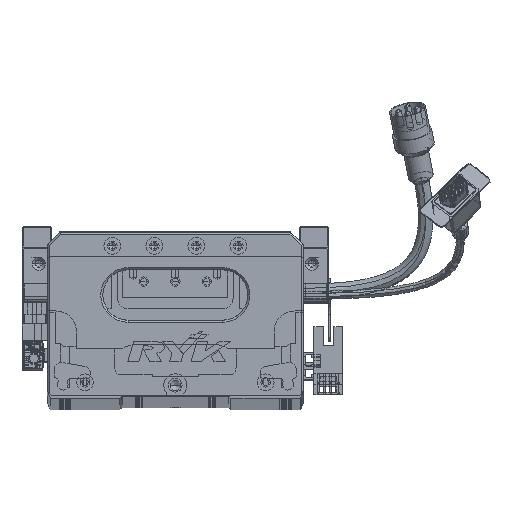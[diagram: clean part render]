
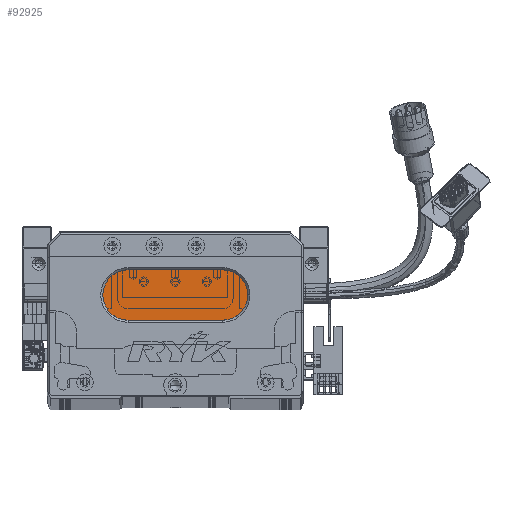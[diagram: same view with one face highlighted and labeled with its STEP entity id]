
A CAD part, top view. The second image highlights one B-rep face of the part: STEP entity #92925.
In plain terms, the highlighted planar face has unit normal (0, 0, 1) as drawn and (0, 0, -1) by its records, which use the part's own axes.
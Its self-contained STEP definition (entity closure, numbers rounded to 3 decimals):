
#1238 = DIRECTION ( 'NONE',  ( 0., 0., -1. ) ) ;
#5260 = AXIS2_PLACEMENT_3D ( 'NONE', #74980, #1238, #34184 ) ;
#7114 = CARTESIAN_POINT ( 'NONE',  ( 38.5, 60., 13. ) ) ;
#12437 = DIRECTION ( 'NONE',  ( -1., 0., 0. ) ) ;
#16497 = VECTOR ( 'NONE', #12437, 1000. ) ;
#18203 = EDGE_CURVE ( 'NONE', #92623, #50746, #44676, .T. ) ;
#18813 = EDGE_CURVE ( 'NONE', #50746, #87713, #137447, .T. ) ;
#19973 = VERTEX_POINT ( 'NONE', #7114 ) ;
#20079 = DIRECTION ( 'NONE',  ( 1., 0., 0. ) ) ;
#20404 = CARTESIAN_POINT ( 'NONE',  ( 83.5, 48., 13. ) ) ;
#20420 = ORIENTED_EDGE ( 'NONE', *, *, #28618, .T. ) ;
#21887 = DIRECTION ( 'NONE',  ( 0., 0., -1. ) ) ;
#22113 = EDGE_CURVE ( 'NONE', #87713, #19973, #78708, .T. ) ;
#24825 = ORIENTED_EDGE ( 'NONE', *, *, #45927, .T. ) ;
#27482 = EDGE_LOOP ( 'NONE', ( #20420, #122337, #88096, #61699, #24825 ) ) ;
#28618 = EDGE_CURVE ( 'NONE', #74074, #92623, #103250, .T. ) ;
#34184 = DIRECTION ( 'NONE',  ( -1., 0., 0. ) ) ;
#38293 = CARTESIAN_POINT ( 'NONE',  ( 83.5, 60., 13. ) ) ;
#40057 = CARTESIAN_POINT ( 'NONE',  ( 83.5, 60., 13. ) ) ;
#41635 = CARTESIAN_POINT ( 'NONE',  ( 38.5, 36., 13. ) ) ;
#44676 = LINE ( 'NONE', #86132, #16497 ) ;
#45446 = AXIS2_PLACEMENT_3D ( 'NONE', #54712, #21887, #76073 ) ;
#45927 = EDGE_CURVE ( 'NONE', #19973, #74074, #93654, .T. ) ;
#50746 = VERTEX_POINT ( 'NONE', #41635 ) ;
#54712 = CARTESIAN_POINT ( 'NONE',  ( 38.5, 48., 13. ) ) ;
#54971 = PLANE ( 'NONE',  #5260 ) ;
#61699 = ORIENTED_EDGE ( 'NONE', *, *, #22113, .T. ) ;
#65460 = VECTOR ( 'NONE', #20079, 1000. ) ;
#74074 = VERTEX_POINT ( 'NONE', #38293 ) ;
#74980 = CARTESIAN_POINT ( 'NONE',  ( 83.5, 48., 13. ) ) ;
#76073 = DIRECTION ( 'NONE',  ( -1., 0., 0. ) ) ;
#78708 = CIRCLE ( 'NONE', #45446, 12. ) ;
#85972 = DIRECTION ( 'NONE',  ( 0., 0., -1. ) ) ;
#86132 = CARTESIAN_POINT ( 'NONE',  ( 83.5, 36., 13. ) ) ;
#86254 = DIRECTION ( 'NONE',  ( 0., 0., -1. ) ) ;
#86422 = CARTESIAN_POINT ( 'NONE',  ( 38.5, 48., 13. ) ) ;
#87713 = VERTEX_POINT ( 'NONE', #128011 ) ;
#88096 = ORIENTED_EDGE ( 'NONE', *, *, #18813, .T. ) ;
#91490 = DIRECTION ( 'NONE',  ( -1., 0., 0. ) ) ;
#92623 = VERTEX_POINT ( 'NONE', #117692 ) ;
#92925 = ADVANCED_FACE ( 'NONE', ( #100688 ), #54971, .T. ) ;
#93654 = LINE ( 'NONE', #40057, #65460 ) ;
#94408 = AXIS2_PLACEMENT_3D ( 'NONE', #86422, #85972, #91490 ) ;
#99219 = AXIS2_PLACEMENT_3D ( 'NONE', #20404, #86254, #108476 ) ;
#100688 = FACE_OUTER_BOUND ( 'NONE', #27482, .T. ) ;
#103250 = CIRCLE ( 'NONE', #99219, 12. ) ;
#108476 = DIRECTION ( 'NONE',  ( -1., 0., 0. ) ) ;
#117692 = CARTESIAN_POINT ( 'NONE',  ( 83.5, 36., 13. ) ) ;
#122337 = ORIENTED_EDGE ( 'NONE', *, *, #18203, .T. ) ;
#128011 = CARTESIAN_POINT ( 'NONE',  ( 26.5, 48., 13. ) ) ;
#137447 = CIRCLE ( 'NONE', #94408, 12. ) ;
